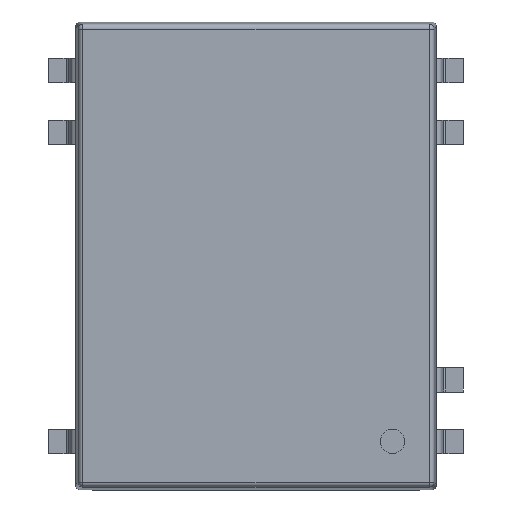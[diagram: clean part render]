
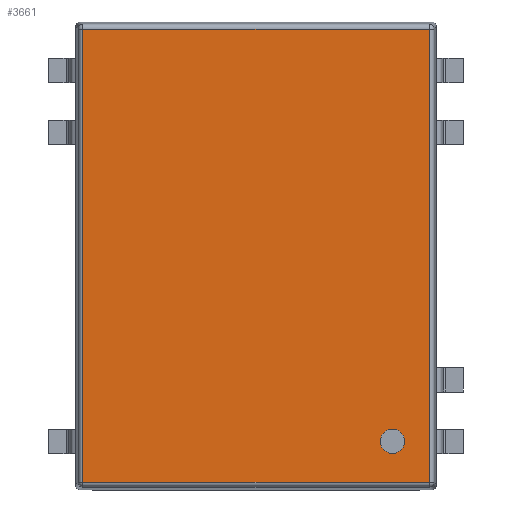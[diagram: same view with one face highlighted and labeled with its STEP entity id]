
A CAD part, top view. The second image highlights one B-rep face of the part: STEP entity #3661.
In plain terms, the highlighted planar face has unit normal (0, 0, 1).
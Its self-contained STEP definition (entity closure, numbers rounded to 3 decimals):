
#187=FACE_BOUND('',#705,.T.);
#309=PLANE('',#3968);
#499=FACE_OUTER_BOUND('',#704,.T.);
#704=EDGE_LOOP('',(#3396,#3397,#3398,#3399));
#705=EDGE_LOOP('',(#3400));
#1079=LINE('',#5955,#1466);
#1083=LINE('',#5964,#1470);
#1087=LINE('',#5973,#1474);
#1091=LINE('',#5982,#1478);
#1466=VECTOR('',#4914,14.197);
#1470=VECTOR('',#4924,18.597);
#1474=VECTOR('',#4934,18.597);
#1478=VECTOR('',#4944,14.197);
#1587=CIRCLE('',#3969,0.5);
#1897=VERTEX_POINT('',#5929);
#1899=VERTEX_POINT('',#5934);
#1903=VERTEX_POINT('',#5943);
#1905=VERTEX_POINT('',#5948);
#1915=VERTEX_POINT('',#5999);
#2391=EDGE_CURVE('',#1905,#1903,#1079,.T.);
#2396=EDGE_CURVE('',#1899,#1905,#1083,.T.);
#2401=EDGE_CURVE('',#1903,#1897,#1087,.T.);
#2406=EDGE_CURVE('',#1897,#1899,#1091,.T.);
#2416=EDGE_CURVE('',#1915,#1915,#1587,.T.);
#3396=ORIENTED_EDGE('',*,*,#2391,.F.);
#3397=ORIENTED_EDGE('',*,*,#2396,.F.);
#3398=ORIENTED_EDGE('',*,*,#2406,.F.);
#3399=ORIENTED_EDGE('',*,*,#2401,.F.);
#3400=ORIENTED_EDGE('',*,*,#2416,.T.);
#3661=ADVANCED_FACE('',(#499,#187),#309,.T.);
#3968=AXIS2_PLACEMENT_3D('',#5998,#4963,#4964);
#3969=AXIS2_PLACEMENT_3D('',#6000,#4965,#4966);
#4914=DIRECTION('',(-1.,0.,0.));
#4924=DIRECTION('',(0.,-1.,0.));
#4934=DIRECTION('',(0.,1.,0.));
#4944=DIRECTION('',(1.,0.,0.));
#4963=DIRECTION('center_axis',(0.,0.,1.));
#4964=DIRECTION('ref_axis',(1.,0.,0.));
#4965=DIRECTION('center_axis',(0.,0.,-1.));
#4966=DIRECTION('ref_axis',(-1.,0.,0.));
#5929=CARTESIAN_POINT('',(-7.099,9.299,7.45));
#5934=CARTESIAN_POINT('',(7.099,9.299,7.45));
#5943=CARTESIAN_POINT('',(-7.099,-9.299,7.45));
#5948=CARTESIAN_POINT('',(7.099,-9.299,7.45));
#5955=CARTESIAN_POINT('',(3.7,-9.299,7.45));
#5964=CARTESIAN_POINT('',(7.099,4.8,7.45));
#5973=CARTESIAN_POINT('',(-7.099,-4.8,7.45));
#5982=CARTESIAN_POINT('',(-3.7,9.299,7.45));
#5998=CARTESIAN_POINT('Origin',(0.,0.,7.45));
#5999=CARTESIAN_POINT('',(6.1,-7.62,7.45));
#6000=CARTESIAN_POINT('Origin',(5.6,-7.62,7.45));
